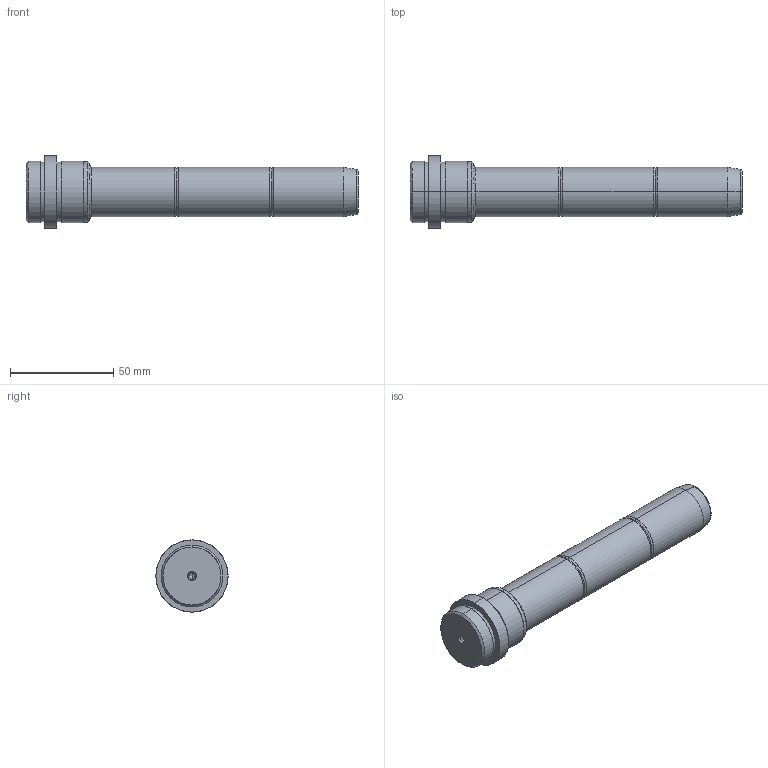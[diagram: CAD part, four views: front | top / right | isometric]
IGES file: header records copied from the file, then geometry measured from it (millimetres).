
Start section: SolidWorks IGES FILE using analytic representation for surfaces
Global section: file name: D:\zzzzz\Delta\D03\24\D03 - 24x22x130.IGS; native system: SolidWorks 2004 by SolidWorks Corporation; preprocessor: Version 5.3; author: Hkn; date: 080327.164827; units: millimetre
Bounding box: 161 x 35 x 35 mm (x, y, z)
Surface area: 14731.4 mm2 (no closed solid volume)
Topology: 0 solids, 0 shells, 56 faces, 1056 edges, 1052 vertices
Faces by surface type: revolution 36, bspline 20
